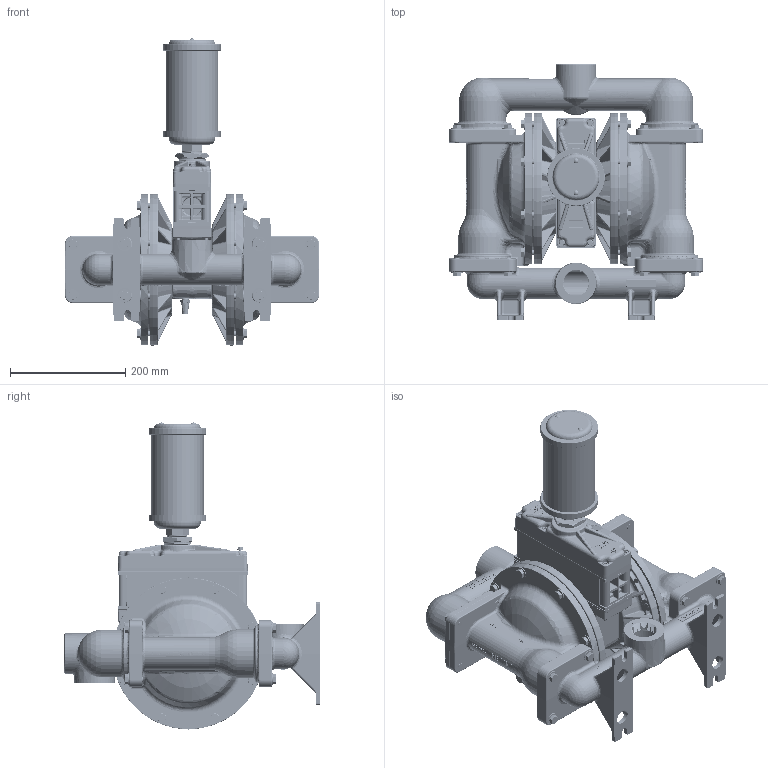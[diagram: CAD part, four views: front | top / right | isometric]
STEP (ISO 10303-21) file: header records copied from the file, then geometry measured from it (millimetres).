
FILE_DESCRIPTION((''),'2;1');
FILE_NAME('PS420_ALUM_TOP_SW0002','2015-09-23T',('nathan.hale'),(''),'PRO/ENGINEER BY PARAMETRIC TECHNOLOGY CORPORATION, 2013320','PRO/ENGINEER BY PARAMETRIC TECHNOLOGY CORPORATION, 2013320','');
FILE_SCHEMA(('CONFIG_CONTROL_DESIGN'));
Length unit declared in the file: inch
Products named in the file (1): PS420_ALUM_TOP_SW0002
Bounding box: 442.46 x 444.38 x 533.53 mm (x, y, z)
Volume: 8259171.6 mm3; surface area: 1798349.2 mm2
Topology: 2 solids, 9 shells, 20477 faces, 53442 edges, 33571 vertices
Faces by surface type: plane 12040, bspline 2902, cylinder 2121, torus 1411, cone 1283, sphere 573, extrusion 147
Entity records: 1144495 total; most frequent: CARTESIAN_POINT 667090, ORIENTED_EDGE 106416, DIRECTION 88727, EDGE_CURVE 53208, VERTEX_POINT 33571, VECTOR 32935, LINE 32788, AXIS2_PLACEMENT_3D 27896
